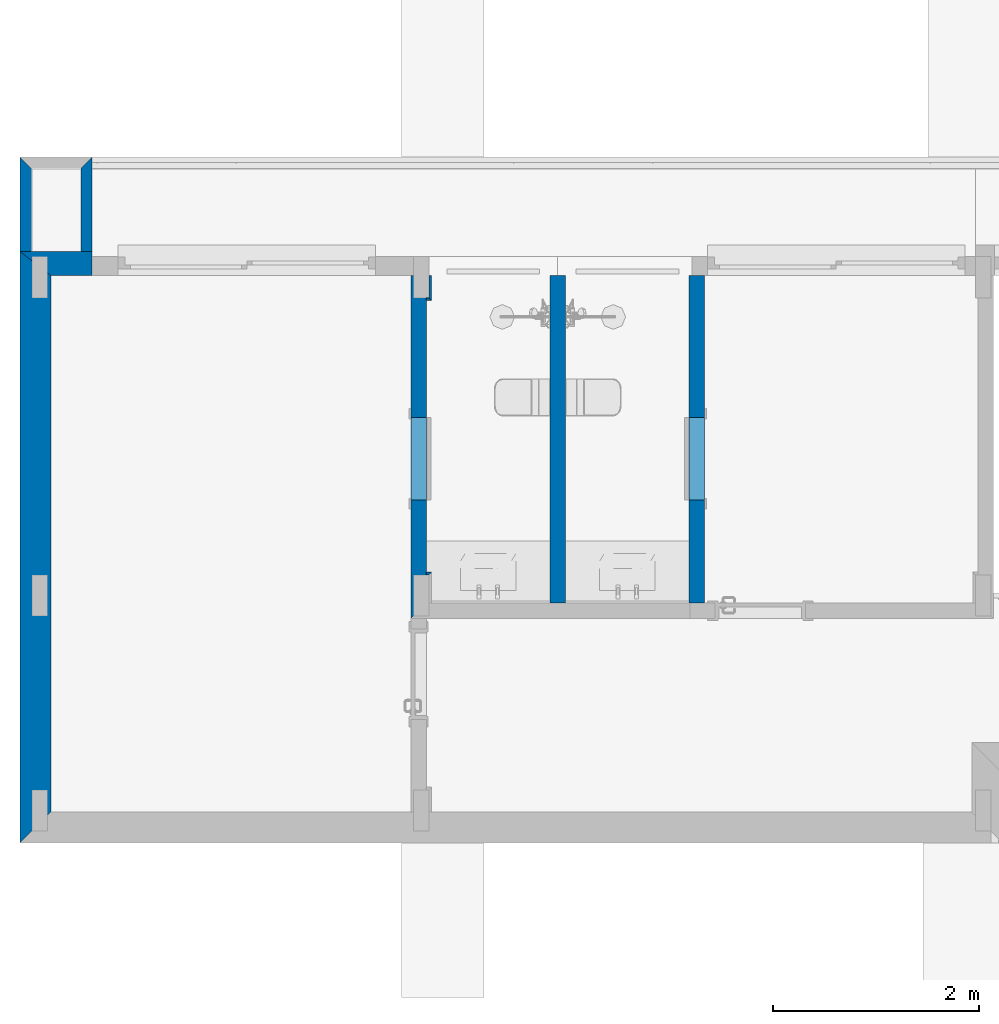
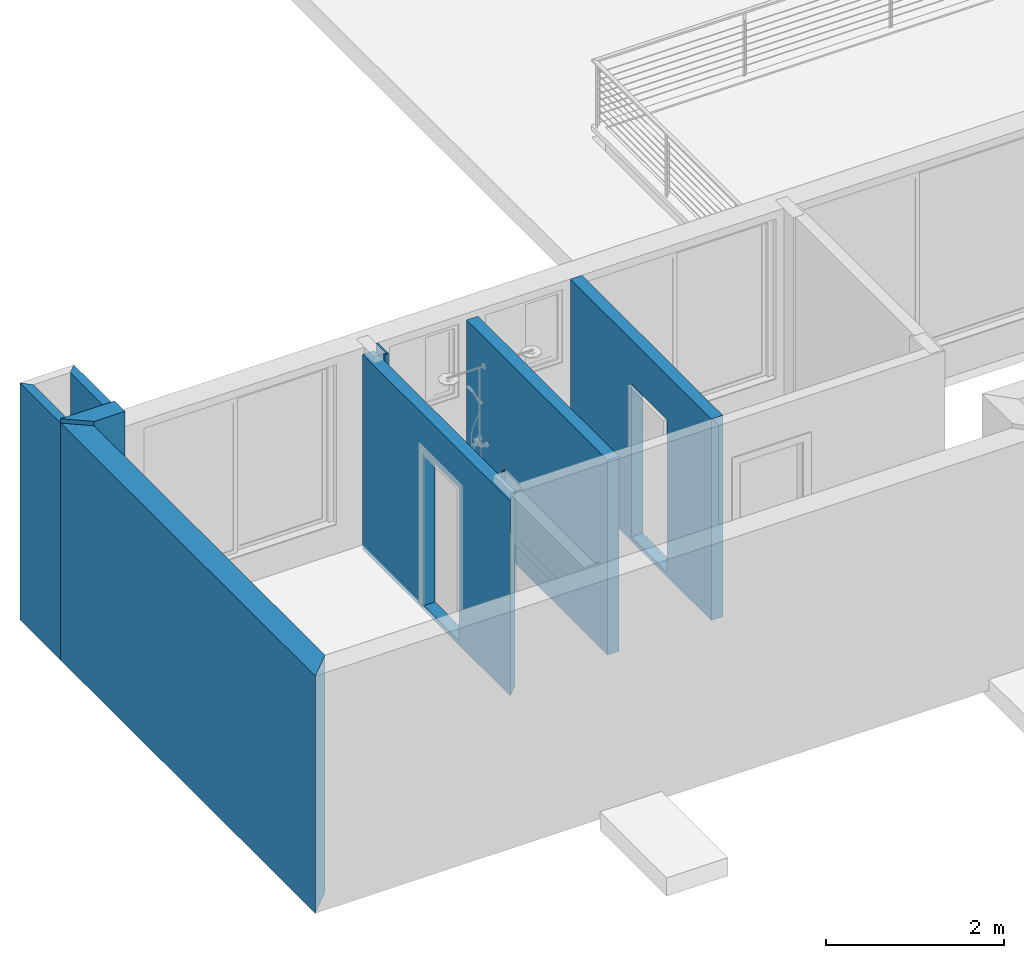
# One storey, part 6 of 24: 10 walls, 2 openings.
"""IFC2X3 building model written with IfcOpenShell, lengths in millimetres."""

from ifc_helpers import new_model, entity, si_unit, converted_unit, money_unit, direction, frame, origin_with_axes, origin_2d_with_axis, place, context, subcontext, project, spatial, polyline, rectangle, outline, extrude, material, layer, layer_set, layer_usage, type_object, element, save


model = new_model("IFC2X3")

# Units and contexts
model_context = context("Model", 3, precision=1e-05, world=origin_with_axes(), true_north=direction((0.0, 1.0)))
body_context = subcontext(model_context, "Body", "Model", "MODEL_VIEW")
ifc_project = project(units=[si_unit("LENGTHUNIT", "METRE", prefix="MILLI"), si_unit("AREAUNIT", "SQUARE_METRE"), si_unit("VOLUMEUNIT", "CUBIC_METRE"), converted_unit("PLANEANGLEUNIT", "DEGREE", entity("IfcPlaneAngleMeasure", 0.0174532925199), si_unit("PLANEANGLEUNIT", "RADIAN"), dimensions=[0, 0, 0, 0, 0, 0, 0]), si_unit("SOLIDANGLEUNIT", "STERADIAN"), money_unit("USD"), converted_unit("TIMEUNIT", "Year", entity("IfcTimeMeasure", 31556926.0), si_unit("TIMEUNIT", "SECOND"), dimensions=[0, 0, 0, 0, 0, 0, 0]), si_unit("MASSUNIT", "GRAM"), si_unit("THERMODYNAMICTEMPERATUREUNIT", "DEGREE_CELSIUS"), si_unit("LUMINOUSINTENSITYUNIT", "LUMEN")], contexts=[model_context])

# Site, building, storey
site_placement = place(None, origin_with_axes())
site = spatial("IfcSite", under=ifc_project, at=site_placement, Name="Grove Residential", CompositionType="ELEMENT")
building_placement = place(site_placement, origin_with_axes())
building = spatial("IfcBuilding", under=site, at=building_placement, Name="Building", CompositionType="ELEMENT")
storey_placement = place(building_placement, frame((0.0, 0.0, 3740.0), z_axis=(0.0, 0.0, 1.0), x_axis=(1.0, 0.0, 0.0)))
storey = spatial("IfcBuildingStorey", under=building, at=storey_placement, Name="First Floor", CompositionType="ELEMENT", Elevation=3740.0)

# Walls
ifc_material_1 = material(Name="Insulation - Plastic Soft")
ifc_layer_1 = layer(ifc_material_1, 50.0, ventilated="UNKNOWN")
ifc_material_2 = material(Name="Concrete Block")
ifc_layer_2 = layer(ifc_material_2, 150.0, ventilated="UNKNOWN")
ifc_material_3 = material(Name="Air Space - Fixing Zone")
ifc_layer_3 = layer(ifc_material_3, 10.0, ventilated="UNKNOWN")
ifc_material_4 = material(Name="Gypsum Plasterboard")
ifc_layer_4 = layer(ifc_material_4, 12.5, ventilated="UNKNOWN")
ifc_layer_5 = layer(ifc_material_4, 12.5, ventilated="UNKNOWN")
ifc_layer_set_1 = layer_set([ifc_layer_1, ifc_layer_2, ifc_layer_3, ifc_layer_4, ifc_layer_5], Name="EWF - 004")
ifc_layer_usage_1 = layer_usage(ifc_layer_set_1, "AXIS2", "POSITIVE", -50.0)
wall_type_1 = type_object("IfcWallType", Name="EWF - 004 235", PredefinedType="NOTDEFINED")
wall_1_placement = place(storey_placement, frame((-8000.0, 7035.0, 0.0), z_axis=(0.0, 0.0, 1.0), x_axis=(-1.0, 0.0, 0.0)))
element("IfcWallStandardCase", 1, at=wall_1_placement, inside=storey, type_object=wall_type_1, material=ifc_layer_usage_1, Name="SW - 004", context=body_context, shape_type="SweptSolid", body=[
    extrude(outline(polyline([(0.0, -50.0), (700.0, -50.0), (400.0, 185.0), (0.0, 185.0), (0.0, -50.0)])), origin_with_axes(), (0.0, 0.0, 1.0), 2920.0),
])
ifc_material_5 = material(Name="Wall Tiles")
ifc_layer_6 = layer(ifc_material_5, 12.5, ventilated="UNKNOWN")
ifc_material_6 = material(Name="Gypsum Plasterboard - Waterproof")
ifc_layer_7 = layer(ifc_material_6, 12.5, ventilated="UNKNOWN")
ifc_material_7 = material(Name="Air Space - Frame")
ifc_layer_8 = layer(ifc_material_7, 50.0, ventilated="UNKNOWN")
ifc_material_8 = material(Name="Insulation - Mineral Soft")
ifc_layer_9 = layer(ifc_material_8, 50.0, ventilated="UNKNOWN")
ifc_layer_10 = layer(ifc_material_6, 12.5, ventilated="UNKNOWN")
ifc_layer_11 = layer(ifc_material_5, 12.5, ventilated="UNKNOWN")
ifc_layer_set_2 = layer_set([ifc_layer_6, ifc_layer_7, ifc_layer_8, ifc_layer_9, ifc_layer_10, ifc_layer_11], Name="IWF-003")
ifc_layer_usage_2 = layer_usage(ifc_layer_set_2, "AXIS2", "NEGATIVE", 0.0)
wall_type_2 = type_object("IfcWallType", Name="IWF-003 150", PredefinedType="NOTDEFINED")
wall_2_placement = place(storey_placement, frame((-3410.0, 7035.0, -60.0), z_axis=(0.0, 0.0, 1.0), x_axis=(0.0, -1.0, 0.0)))
element("IfcWallStandardCase", 2, at=wall_2_placement, inside=storey, type_object=wall_type_2, material=ifc_layer_usage_2, Name="SW - 001", context=body_context, shape_type="SweptSolid", body=[
    extrude(outline(polyline([(185.0, -150.0), (3360.00003278, -150.0), (3360.00003278, 0.0), (185.0, 0.0), (185.0, -150.0)])), origin_with_axes(), (0.0, 0.0, 1.0), 2680.0),
])

# Wall, opening
ifc_layer_12 = layer(ifc_material_5, 12.5, ventilated="UNKNOWN")
ifc_layer_13 = layer(ifc_material_6, 12.5, ventilated="UNKNOWN")
ifc_layer_14 = layer(ifc_material_7, 50.0, ventilated="UNKNOWN")
ifc_layer_15 = layer(ifc_material_8, 50.0, ventilated="UNKNOWN")
ifc_layer_16 = layer(ifc_material_4, 12.5, ventilated="UNKNOWN")
ifc_layer_17 = layer(ifc_material_4, 12.5, ventilated="UNKNOWN")
ifc_layer_set_3 = layer_set([ifc_layer_12, ifc_layer_13, ifc_layer_14, ifc_layer_15, ifc_layer_16, ifc_layer_17], Name="IWF-002")
ifc_layer_usage_3 = layer_usage(ifc_layer_set_3, "AXIS2", "NEGATIVE", 150.0)
wall_type_3 = type_object("IfcWallType", Name="IWF-002 150", PredefinedType="NOTDEFINED")
wall_3_placement = place(storey_placement, frame((-4910.0, 7035.0, -60.0), z_axis=(0.0, 0.0, 1.0), x_axis=(0.0, -1.0, 0.0)))
wall_3 = element("IfcWallStandardCase", 3, at=wall_3_placement, inside=storey, type_object=wall_type_3, material=ifc_layer_usage_3, Name="SW - 001", context=body_context, shape_type="SweptSolid", body=[
    extrude(outline(polyline([(185.0, 0.0), (3510.00003278, 0.0), (3360.00003278, 150.0), (185.0, 150.0), (185.0, 0.0)])), origin_with_axes(), (0.0, 0.0, 1.0), 2680.0),
])
opening_1_placement = place(wall_3_placement, frame((1960.00003278, 0.0, 60.0), z_axis=(0.0, 0.0, 1.0), x_axis=(1.0, 0.0, 0.0)))
element("IfcOpeningElement", 4, at=opening_1_placement, cuts=wall_3, Name="D.01", context=body_context, shape_type="SweptSolid", body=[
    extrude(rectangle(XDim=800.0, YDim=2100.0, at=origin_2d_with_axis()), frame((0.0, 150.0, 1050.0), z_axis=(0.0, 1.0, 0.0), x_axis=(-1.0, 0.0, 0.0)), (0.0, 0.0, -1.0), 450.0),
    extrude(rectangle(XDim=974.0, YDim=2187.0, at=origin_2d_with_axis()), frame((0.0, 0.0, 1093.5), z_axis=(0.0, -1.0, 0.0), x_axis=(-1.0, 0.0, 0.0)), (0.0, 0.0, 1.0), 150.0),
])

ifc_layer_usage_4 = layer_usage(ifc_layer_set_3, "AXIS2", "POSITIVE", -150.0)
wall_4_placement = place(storey_placement, frame((-2060.0, 7035.0, -60.0), z_axis=(0.0, 0.0, 1.0), x_axis=(0.0, -1.0, 0.0)))
wall_4 = element("IfcWallStandardCase", 5, at=wall_4_placement, inside=storey, type_object=wall_type_3, material=ifc_layer_usage_4, Name="SW - 001", context=body_context, shape_type="SweptSolid", body=[
    extrude(outline(polyline([(185.0, -150.0), (3360.00003278, -150.0), (3360.00003278, 0.0), (185.0, 0.0), (185.0, -150.0)])), origin_with_axes(), (0.0, 0.0, 1.0), 2770.0),
])
opening_2_placement = place(wall_4_placement, frame((1960.00003278, 0.0, 60.0), z_axis=(0.0, 0.0, 1.0), x_axis=(1.0, 0.0, 0.0)))
element("IfcOpeningElement", 6, at=opening_2_placement, cuts=wall_4, Name="D.01", context=body_context, shape_type="SweptSolid", body=[
    extrude(rectangle(XDim=800.0, YDim=2100.0, at=origin_2d_with_axis()), frame((0.0, -150.0, 1050.0), z_axis=(0.0, 1.0, 0.0), x_axis=(-1.0, 0.0, 0.0)), (0.0, 0.0, 1.0), 450.0),
    extrude(rectangle(XDim=974.0, YDim=2187.0, at=origin_2d_with_axis()), frame((0.0, 0.0, 1093.5), z_axis=(0.0, -1.0, 0.0), x_axis=(-1.0, 0.0, 0.0)), (0.0, 0.0, -1.0), 150.0),
])

# Walls
ifc_material_9 = material(Name="Timber - External Cladding")
ifc_layer_18 = layer(ifc_material_9, 40.0, ventilated="UNKNOWN")
ifc_layer_19 = layer(ifc_material_3, 25.0, ventilated="UNKNOWN")
ifc_layer_20 = layer(ifc_material_1, 50.0, ventilated="UNKNOWN")
ifc_layer_21 = layer(ifc_material_2, 150.0, ventilated="UNKNOWN")
ifc_layer_22 = layer(ifc_material_3, 10.0, ventilated="UNKNOWN")
ifc_layer_23 = layer(ifc_material_4, 12.5, ventilated="UNKNOWN")
ifc_layer_24 = layer(ifc_material_4, 12.5, ventilated="UNKNOWN")
ifc_layer_set_4 = layer_set([ifc_layer_18, ifc_layer_19, ifc_layer_20, ifc_layer_21, ifc_layer_22, ifc_layer_23, ifc_layer_24], Name="EWF - 002")
ifc_layer_usage_5 = layer_usage(ifc_layer_set_4, "AXIS2", "NEGATIVE", 115.0)
wall_type_4 = type_object("IfcWallType", Name="EWF - 002 300", PredefinedType="NOTDEFINED")
wall_5_placement = place(storey_placement, frame((-8585.0, 1464.99992309, -400.0), z_axis=(0.0, 0.0, 1.0), x_axis=(0.0, 1.0, 0.0)))
element("IfcWallStandardCase", 7, at=wall_5_placement, inside=storey, type_object=wall_type_4, material=ifc_layer_usage_5, Name="SW - 003", context=body_context, shape_type="SweptSolid", body=[
    extrude(outline(polyline([(185.0, -185.0), (5385.00007691, -185.0), (5620.00007691, 115.0), (-115.0, 115.0), (185.0, -185.0)])), origin_with_axes(), (0.0, 0.0, 1.0), 3260.0),
])
ifc_layer_25 = layer(ifc_material_9, 40.0, ventilated="UNKNOWN")
ifc_layer_26 = layer(ifc_material_3, 70.0, ventilated="UNKNOWN")
ifc_layer_set_5 = layer_set([ifc_layer_25, ifc_layer_26], Name="EWF - 007")
ifc_layer_usage_6 = layer_usage(ifc_layer_set_5, "AXIS2", "NEGATIVE", 115.0)
wall_type_5 = type_object("IfcWallType", Name="EWF - 007 110", PredefinedType="NOTDEFINED")
wall_6_placement = place(storey_placement, frame((-8585.0, 7035.0, -400.0), z_axis=(0.0, 0.0, 1.0), x_axis=(0.0, 1.0, 0.0)))
element("IfcWallStandardCase", 8, at=wall_6_placement, inside=storey, type_object=wall_type_5, material=ifc_layer_usage_6, Name="SW - 001", context=body_context, shape_type="SweptSolid", body=[
    extrude(outline(polyline([(50.0, 5.0), (855.0, 5.0), (965.0, 115.0), (50.0, 115.0), (50.0, 5.0)])), origin_with_axes(), (0.0, 0.0, 1.0), 3260.0),
])
ifc_layer_usage_7 = layer_usage(ifc_layer_set_5, "AXIS2", "NEGATIVE", 115.0)
wall_7_placement = place(storey_placement, frame((-8115.0, 7885.0, -150.0), z_axis=(0.0, 0.0, 1.0), x_axis=(0.0, -1.0, 0.0)))
element("IfcWallStandardCase", 9, at=wall_7_placement, inside=storey, type_object=wall_type_5, material=ifc_layer_usage_7, Name="SW - 003", context=body_context, shape_type="SweptSolid", body=[
    extrude(outline(polyline([(-5.0, 5.0), (800.0, 5.0), (800.0, 115.0), (-115.0, 115.0), (-5.0, 5.0)])), origin_with_axes(), (0.0, 0.0, 1.0), 3010.0),
])
ifc_layer_27 = layer(ifc_material_5, 12.5, ventilated="UNKNOWN")
ifc_layer_28 = layer(ifc_material_4, 12.5, ventilated="UNKNOWN")
ifc_layer_set_6 = layer_set([ifc_layer_27, ifc_layer_28], Name="IF-002")
ifc_layer_usage_8 = layer_usage(ifc_layer_set_6, "AXIS2", "NEGATIVE", 25.0)
wall_type_6 = type_object("IfcWallType", Name="IF-002 25", PredefinedType="NOTDEFINED")
wall_8_placement = place(storey_placement, frame((-4910.0, 3949.99996722, -60.0), z_axis=(0.0, 0.0, 1.0), x_axis=(1.0, 0.0, 0.0)))
element("IfcWallStandardCase", 10, at=wall_8_placement, inside=storey, type_object=wall_type_6, material=ifc_layer_usage_8, Name="SW - 003", context=body_context, shape_type="SweptSolid", body=[
    extrude(outline(polyline([(150.0, 0.0), (175.0, 0.0), (200.0, 25.0), (150.0, 25.0), (150.0, 0.0)])), origin_with_axes(), (0.0, 0.0, 1.0), 2770.0),
])
ifc_layer_usage_9 = layer_usage(ifc_layer_set_6, "AXIS2", "POSITIVE", -25.0)
wall_9_placement = place(storey_placement, frame((-4910.0, 6635.00024558, -60.0), z_axis=(0.0, 0.0, 1.0), x_axis=(1.0, 0.0, 0.0)))
element("IfcWallStandardCase", 11, at=wall_9_placement, inside=storey, type_object=wall_type_6, material=ifc_layer_usage_9, Name="SW - 004", context=body_context, shape_type="SweptSolid", body=[
    extrude(outline(polyline([(150.0, -25.0), (200.0, -25.0), (175.0, 0.0), (150.0, 0.0), (150.0, -25.0)])), origin_with_axes(), (0.0, 0.0, 1.0), 2770.0),
])
ifc_layer_usage_10 = layer_usage(ifc_layer_set_6, "AXIS2", "POSITIVE", -25.0)
wall_10_placement = place(storey_placement, frame((-4735.0, 6635.00024558, -60.0), z_axis=(0.0, 0.0, 1.0), x_axis=(0.0, 1.0, 0.0)))
element("IfcWallStandardCase", 12, at=wall_10_placement, inside=storey, type_object=wall_type_6, material=ifc_layer_usage_10, Name="SW - 005", context=body_context, shape_type="SweptSolid", body=[
    extrude(outline(polyline([(-25.0, -25.0), (214.999754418, -25.0), (214.999754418, 0.0), (0.0, 0.0), (-25.0, -25.0)])), origin_with_axes(), (0.0, 0.0, 1.0), 2770.0),
])

save(model, "model.ifc")
